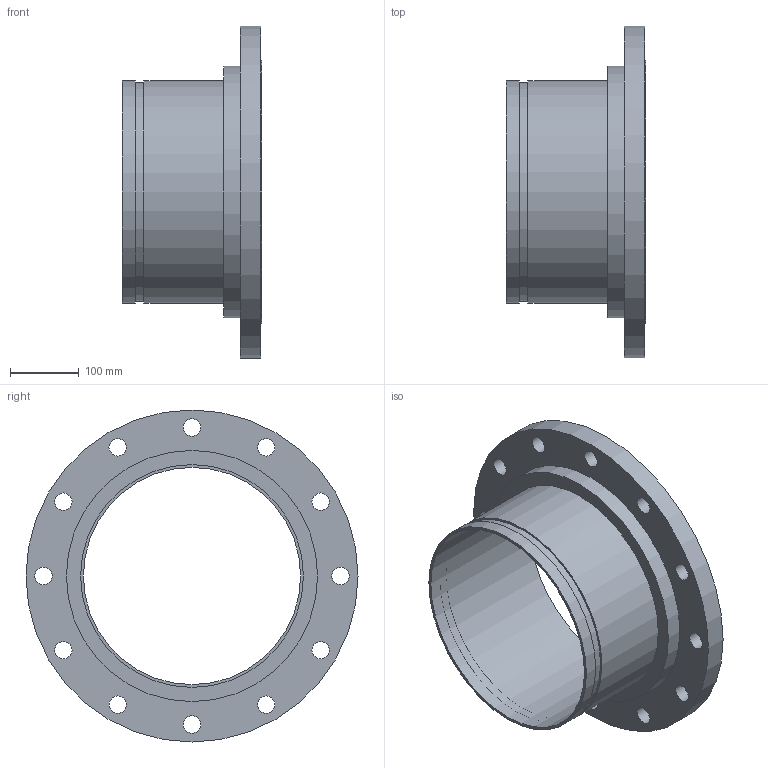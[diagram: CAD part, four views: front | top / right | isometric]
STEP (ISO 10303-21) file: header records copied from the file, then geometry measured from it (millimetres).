
FILE_DESCRIPTION(/* description */ ('VIC No 445R FLANGE ADAPTER NIPPE (ANSI)','CAx-IF Rec.Pracs.---Representation and Presentation of Product Manufacturing Information (PMI)---4.0---2014-10-13'),/* implementation_level */ '2;1');
FILE_NAME(/* name */ 'C:\Users\kkamble\AppData\Roaming\Autodesk\ApplicationPlugins\Back Up\Victaulic_SS-OGS_Flanged Adapter Nipple_CL 150 RF_Style 445R (OGSxFLG)\Victaulic_SS-OGS_Flanged Adapter Nipple_CL 150 RF_Style 445R (OGSxFLG)_12 (300).stp',/* time_stamp */ '2020-08-27T09:31:24+05:00',/* author */ ('jbrannon'),/* organization */ ('Victaulic'),/* preprocessor_version */ 'ST-DEVELOPER v17.2',/* originating_system */ 'Autodesk Inventor 2019',/* authorisation */ '');
FILE_SCHEMA (('AP242_MANAGED_MODEL_BASED_3D_ENGINEERING_MIM_LF { 1 0 10303 442 1 1 4 }'));
Length unit declared in the file: inch
Products named in the file (1): 445R-12.0
Bounding box: 203.2 x 482.6 x 482.6 mm (x, y, z)
Volume: 4228970.2 mm3; surface area: 658152.9 mm2
Topology: 1 solids, 1 shells, 26 faces, 71 edges, 52 vertices
Faces by surface type: cylinder 19, plane 7
Full cylindrical faces by diameter (mm): 25.4 x12, 315.722 x1, 318.287 x1, 323.85 x2, 365.252 x1, 381 x1, 482.6 x1
Entity records: 1089 total; most frequent: DIRECTION 203, CARTESIAN_POINT 167, ORIENTED_EDGE 142, AXIS2_PLACEMENT_3D 92, EDGE_CURVE 71, EDGE_LOOP 57, CIRCLE 52, VERTEX_POINT 52
